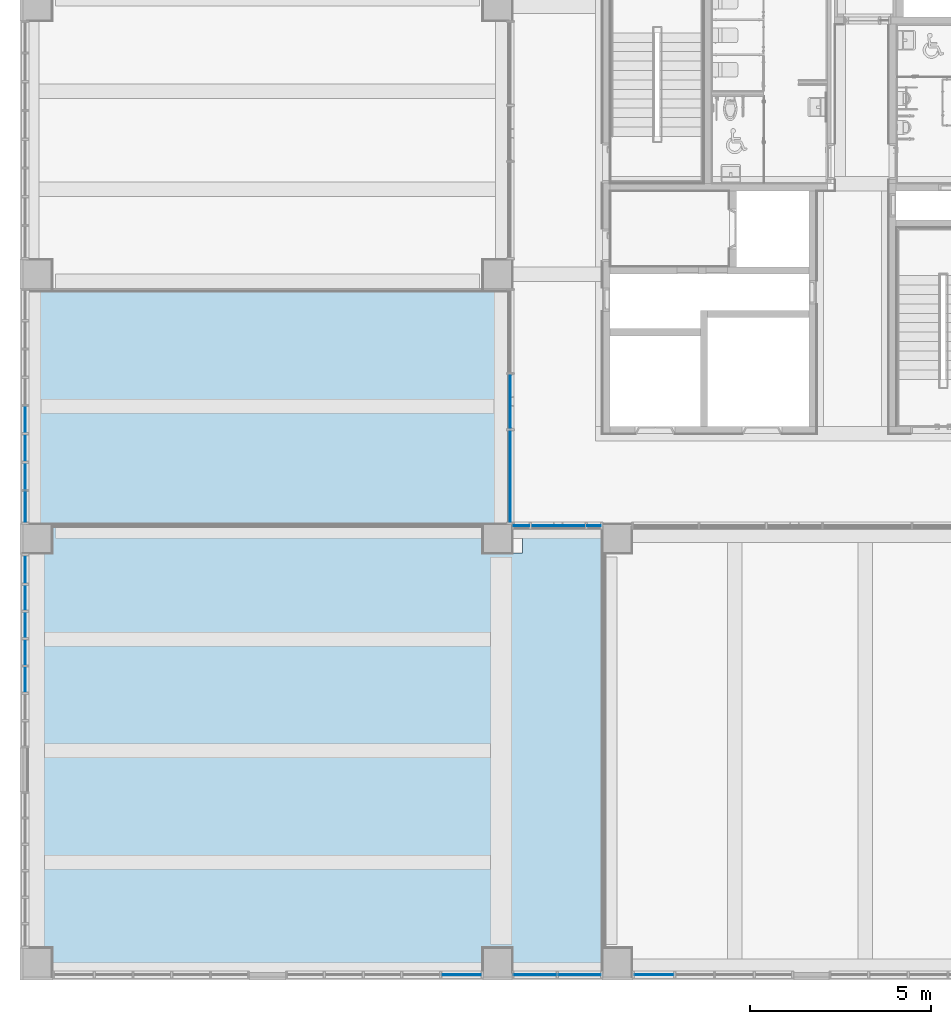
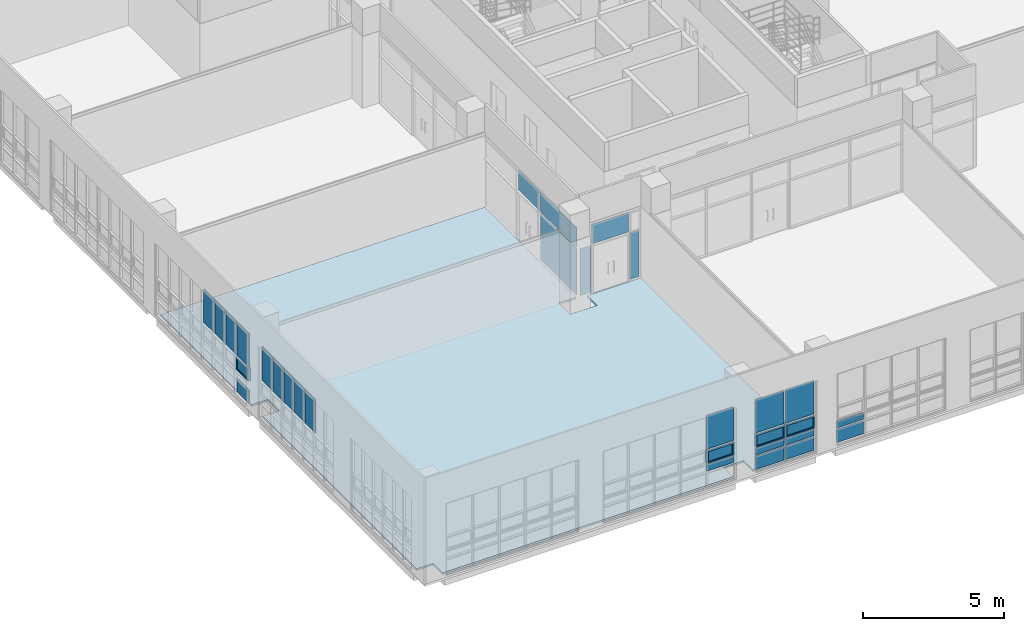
# One storey, part 31 of 74: 30 plates, 1 slab, 7 elements without a shape of their own.
"""IFC2X3 building model written with IfcOpenShell, lengths in millimetres."""

from ifc_helpers import new_model, entity, si_unit, converted_unit, derived_unit, direction, frame, origin, origin_2d_with_axis, place, context, subcontext, project, spatial, polyline, rectangle, outline, extrude, source, transform, mapped, material, material_list, layer, layer_set, layer_usage, type_object, type_shapes, element, aggregate, save


model = new_model("IFC2X3")

# Units and contexts
model_context = context("Model", 3, precision=0.01, world=origin(), true_north=direction((6.123031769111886e-17, 1.0)))
body_context = subcontext(model_context, "Body", "Model", "MODEL_VIEW")
ifc_project = project(units=[si_unit("LENGTHUNIT", "METRE", prefix="MILLI"), si_unit("AREAUNIT", "SQUARE_METRE"), si_unit("VOLUMEUNIT", "CUBIC_METRE"), converted_unit("PLANEANGLEUNIT", "DEGREE", entity("IfcRatioMeasure", 0.017453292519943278), si_unit("PLANEANGLEUNIT", "RADIAN"), dimensions=[0, 0, 0, 0, 0, 0, 0]), si_unit("MASSUNIT", "GRAM", prefix="KILO"), derived_unit("MASSDENSITYUNIT", [(si_unit("MASSUNIT", "GRAM", prefix="KILO"), 1), (si_unit("LENGTHUNIT", "METRE"), -3)]), derived_unit("MOMENTOFINERTIAUNIT", [(si_unit("LENGTHUNIT", "METRE"), 4)]), si_unit("TIMEUNIT", "SECOND"), si_unit("FREQUENCYUNIT", "HERTZ"), si_unit("THERMODYNAMICTEMPERATUREUNIT", "DEGREE_CELSIUS"), derived_unit("THERMALTRANSMITTANCEUNIT", [(si_unit("MASSUNIT", "GRAM", prefix="KILO"), 1), (si_unit("THERMODYNAMICTEMPERATUREUNIT", "KELVIN"), -1), (si_unit("TIMEUNIT", "SECOND"), -3)]), derived_unit("VOLUMETRICFLOWRATEUNIT", [(si_unit("LENGTHUNIT", "METRE"), 3), (si_unit("TIMEUNIT", "SECOND"), -1)]), derived_unit("MASSFLOWRATEUNIT", [(si_unit("MASSUNIT", "GRAM", prefix="KILO"), 1), (si_unit("TIMEUNIT", "SECOND"), -1)]), derived_unit("ROTATIONALFREQUENCYUNIT", [(si_unit("TIMEUNIT", "SECOND"), -1)]), si_unit("ELECTRICCURRENTUNIT", "AMPERE"), si_unit("ELECTRICVOLTAGEUNIT", "VOLT"), si_unit("POWERUNIT", "WATT"), si_unit("FORCEUNIT", "NEWTON", prefix="KILO"), si_unit("ILLUMINANCEUNIT", "LUX"), si_unit("LUMINOUSFLUXUNIT", "LUMEN"), si_unit("LUMINOUSINTENSITYUNIT", "CANDELA"), derived_unit("USERDEFINED", [(si_unit("MASSUNIT", "GRAM", prefix="KILO"), -1), (si_unit("LENGTHUNIT", "METRE"), -2), (si_unit("TIMEUNIT", "SECOND"), 3), (si_unit("LUMINOUSFLUXUNIT", "LUMEN"), 1)]), derived_unit("SOUNDPOWERUNIT", [(si_unit("MASSUNIT", "GRAM", prefix="KILO"), 1), (si_unit("LENGTHUNIT", "METRE"), 2), (si_unit("TIMEUNIT", "SECOND"), -3)]), derived_unit("SOUNDPRESSUREUNIT", [(si_unit("MASSUNIT", "GRAM", prefix="KILO"), 1), (si_unit("LENGTHUNIT", "METRE"), -1), (si_unit("TIMEUNIT", "SECOND"), -2)]), derived_unit("LINEARVELOCITYUNIT", [(si_unit("LENGTHUNIT", "METRE"), 1), (si_unit("TIMEUNIT", "SECOND"), -1)]), si_unit("PRESSUREUNIT", "PASCAL"), derived_unit("USERDEFINED", [(si_unit("LENGTHUNIT", "METRE"), -2), (si_unit("MASSUNIT", "GRAM", prefix="KILO"), 1), (si_unit("TIMEUNIT", "SECOND"), -2)]), derived_unit("LINEARFORCEUNIT", [(si_unit("MASSUNIT", "GRAM", prefix="KILO"), 1), (si_unit("LENGTHUNIT", "METRE"), 1), (si_unit("TIMEUNIT", "SECOND"), -2), (si_unit("LENGTHUNIT", "METRE"), -1)]), derived_unit("PLANARFORCEUNIT", [(si_unit("MASSUNIT", "GRAM", prefix="KILO"), 1), (si_unit("LENGTHUNIT", "METRE"), 1), (si_unit("TIMEUNIT", "SECOND"), -2), (si_unit("LENGTHUNIT", "METRE"), -2)])], contexts=[model_context])

# Site, building, storey
site_placement = place(None, frame((-14167.972527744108, -657.2125860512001, 0.0)))
site = spatial("IfcSite", under=ifc_project, at=site_placement, Name="Default", CompositionType="ELEMENT")
building_placement = place(site_placement, origin())
building = spatial("IfcBuilding", under=site, at=building_placement, Name="Sample Building", CompositionType="ELEMENT")
storey_placement = place(building_placement, frame((0.0, 0.0, 4800.0)))
storey = spatial("IfcBuildingStorey", under=building, at=storey_placement, Name="지상 2층", CompositionType="ELEMENT", Elevation=4800.000000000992)

# Curtain wall, plates
curtain_wall_type = type_object("IfcCurtainWallType", Name="커튼월:CW112-스테인리스 스틸 커튼월", PredefinedType="NOTDEFINED")
curtain_wall_1_placement = place(storey_placement, frame((0.0, 0.0, -4800.0)))
curtain_wall_1 = element("IfcCurtainWall", 1, at=curtain_wall_1_placement, inside=storey, type_object=curtain_wall_type, Name="커튼월:CW112-스테인리스 스틸 커튼월", ObjectType="커튼월:CW112-스테인리스 스틸 커튼월")
ifc_material_1 = material(Name="KBIMS-로이유리(코팅)")
plate_type_1 = type_object("IfcPlateType", Name="CW300-THK24.Low-e coating glass:CW300-THK24.Low-e coating glass", PredefinedType="CURTAIN_PANEL", material=ifc_material_1)
shared_shape_1 = source(origin(), body_context, "Body", "SweptSolid", [
    extrude(rectangle(XDim=856.2499672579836, YDim=24.000000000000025, at=origin_2d_with_axis()), frame((0.0, 0.0, 0.0), z_axis=(0.0, 0.0, 1.0), x_axis=(-1.0, 0.0, 0.0)), (0.0, 0.0, 1.0), 575.0000000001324),
])
type_shapes(plate_type_1, [shared_shape_1])
plate_1_placement = place(curtain_wall_1_placement, frame((14130.47257087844, 13535.337291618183, 4930.0), z_axis=(0.0, 0.0, 1.0), x_axis=(0.0, -1.0, 0.0)))
plate_1 = element("IfcPlate", 2, at=plate_1_placement, type_object=plate_type_1, material=ifc_material_1, Name="CW300-THK24.Low-e coating glass:CW300-THK24.Low-e coating glass", ObjectType="CW300-THK24.Low-e coating glass:CW300-THK24.Low-e coating glass", context=body_context, shape_type="MappedRepresentation", body=[
    mapped(shared_shape_1, transform((0.0, 0.0, 0.0), scale=1.0)),
])
ifc_material_2 = material(Name="KBIMS-유리")
ifc_material_3 = material(Name="KBIMS-알루미늄")
ifc_material_list_1 = material_list([ifc_material_2, ifc_material_3])
ifc_material_list_2 = material_list([ifc_material_2, ifc_material_3])
plate_type_2 = type_object("IfcPlateType", Name="CW410-프로젝트 창:CW410-프로젝트 창 (하부개폐)", PredefinedType="CURTAIN_PANEL", material=ifc_material_list_2)
shared_shape_2 = source(origin(), body_context, "Body", "SweptSolid", [
    extrude(rectangle(XDim=756.2499672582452, YDim=23.999999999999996, at=origin_2d_with_axis()), frame((0.0, -0.04999999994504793, 50.0), z_axis=(0.0, 0.0, 1.0), x_axis=(-1.0, 0.0, 0.0)), (0.0, 0.0, 1.0), 450.0000000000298),
    extrude(outline(polyline([(-428.124983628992, -275.0), (428.124983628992, -275.0), (428.124983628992, 275.0), (-428.124983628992, 275.0), (-428.124983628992, -275.0)]), holes=[polyline([(-378.12498362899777, -225.0), (-378.1249836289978, 225.0), (378.1249836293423, 225.0), (378.12498362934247, -225.0), (-378.12498362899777, -225.0)])]), frame((0.0, -50.04999999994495, 275.0), z_axis=(0.0, 1.0, 0.0), x_axis=(1.0, 0.0, 0.0)), (0.0, 0.0, 1.0), 99.99999999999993),
])
type_shapes(plate_type_2, [shared_shape_2])
plate_2_placement = place(curtain_wall_1_placement, frame((14130.47257087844, 13535.337291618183, 5905.0), z_axis=(0.0, 0.0, 1.0), x_axis=(0.0, -1.0, 0.0)))
plate_2 = element("IfcPlate", 3, at=plate_2_placement, type_object=plate_type_2, material=ifc_material_list_1, Name="CW410-프로젝트 창:CW410-프로젝트 창 (하부개폐)", ObjectType="CW410-프로젝트 창:CW410-프로젝트 창 (하부개폐)", context=body_context, shape_type="MappedRepresentation", body=[
    mapped(shared_shape_2, transform((0.0, 0.0, 0.0), scale=1.0)),
])
plate_type_3 = type_object("IfcPlateType", Name="CW300-THK24.Low-e coating glass:CW300-THK24.Low-e coating glass", PredefinedType="CURTAIN_PANEL", material=ifc_material_1)
shared_shape_3 = source(origin(), body_context, "Body", "SweptSolid", [
    extrude(rectangle(XDim=731.2499999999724, YDim=24.000000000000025, at=origin_2d_with_axis()), frame((0.0, 0.0, 0.0), z_axis=(0.0, 0.0, 1.0), x_axis=(-1.0, 0.0, 0.0)), (0.0, 0.0, 1.0), 1445.0000000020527),
])
type_shapes(plate_type_3, [shared_shape_3])
plate_3_placement = place(curtain_wall_1_placement, frame((14130.472570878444, 15941.587275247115, 6505.0), z_axis=(0.0, 0.0, 1.0), x_axis=(0.0, -1.0, 0.0)))
plate_3 = element("IfcPlate", 4, at=plate_3_placement, type_object=plate_type_3, material=ifc_material_1, Name="CW300-THK24.Low-e coating glass:CW300-THK24.Low-e coating glass", ObjectType="CW300-THK24.Low-e coating glass:CW300-THK24.Low-e coating glass", context=body_context, shape_type="MappedRepresentation", body=[
    mapped(shared_shape_3, transform((0.0, 0.0, 0.0), scale=1.0)),
])
plate_4_placement = place(curtain_wall_1_placement, frame((14130.472570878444, 15160.33727524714, 6505.0), z_axis=(0.0, 0.0, 1.0), x_axis=(0.0, -1.0, 0.0)))
plate_4 = element("IfcPlate", 5, at=plate_4_placement, type_object=plate_type_3, material=ifc_material_1, Name="CW300-THK24.Low-e coating glass:CW300-THK24.Low-e coating glass", ObjectType="CW300-THK24.Low-e coating glass:CW300-THK24.Low-e coating glass", context=body_context, shape_type="MappedRepresentation", body=[
    mapped(shared_shape_3, transform((0.0, 0.0, 0.0), scale=1.0)),
])
plate_5_placement = place(curtain_wall_1_placement, frame((14130.472570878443, 14379.087275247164, 6505.0), z_axis=(0.0, 0.0, 1.0), x_axis=(0.0, -1.0, 0.0)))
plate_5 = element("IfcPlate", 6, at=plate_5_placement, type_object=plate_type_3, material=ifc_material_1, Name="CW300-THK24.Low-e coating glass:CW300-THK24.Low-e coating glass", ObjectType="CW300-THK24.Low-e coating glass:CW300-THK24.Low-e coating glass", context=body_context, shape_type="MappedRepresentation", body=[
    mapped(shared_shape_3, transform((0.0, 0.0, 0.0), scale=1.0)),
])
plate_type_4 = type_object("IfcPlateType", Name="CW300-THK24.Low-e coating glass:CW300-THK24.Low-e coating glass", PredefinedType="CURTAIN_PANEL", material=ifc_material_1)
shared_shape_4 = source(origin(), body_context, "Body", "SweptSolid", [
    extrude(rectangle(XDim=856.2499672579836, YDim=24.000000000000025, at=origin_2d_with_axis()), frame((0.0, 0.0, 0.0), z_axis=(0.0, 0.0, 1.0), x_axis=(-1.0, 0.0, 0.0)), (0.0, 0.0, 1.0), 1445.0000000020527),
])
type_shapes(plate_type_4, [shared_shape_4])
plate_6_placement = place(curtain_wall_1_placement, frame((14130.47257087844, 13535.337291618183, 6505.0), z_axis=(0.0, 0.0, 1.0), x_axis=(0.0, -1.0, 0.0)))
plate_6 = element("IfcPlate", 7, at=plate_6_placement, type_object=plate_type_4, material=ifc_material_1, Name="CW300-THK24.Low-e coating glass:CW300-THK24.Low-e coating glass", ObjectType="CW300-THK24.Low-e coating glass:CW300-THK24.Low-e coating glass", context=body_context, shape_type="MappedRepresentation", body=[
    mapped(shared_shape_4, transform((0.0, 0.0, 0.0), scale=1.0)),
])
aggregate(curtain_wall_1, [plate_1, plate_2, plate_3, plate_4, plate_5, plate_6])

curtain_wall_2_placement = place(storey_placement, frame((0.0, 0.0, -4800.0)))
curtain_wall_2 = element("IfcCurtainWall", 8, at=curtain_wall_2_placement, inside=storey, type_object=curtain_wall_type, Name="커튼월:CW112-스테인리스 스틸 커튼월", ObjectType="커튼월:CW112-스테인리스 스틸 커튼월")
plate_type_5 = type_object("IfcPlateType", Name="CW300-THK24.Low-e coating glass:CW300-THK24.Low-e coating glass", PredefinedType="CURTAIN_PANEL", material=ifc_material_1)
shared_shape_5 = source(origin(), body_context, "Body", "SweptSolid", [
    extrude(rectangle(XDim=760.5714613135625, YDim=24.000000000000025, at=origin_2d_with_axis()), frame((0.0, 0.0, 0.0), z_axis=(0.0, 0.0, 1.0), x_axis=(-1.0, 0.0, 0.0)), (0.0, 0.0, 1.0), 1445.0000000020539),
])
type_shapes(plate_type_5, [shared_shape_5])
plate_7_placement = place(curtain_wall_2_placement, frame((14130.472570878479, 11808.926577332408, 6505.0), z_axis=(0.0, 0.0, 1.0), x_axis=(0.0, -1.0, 0.0)))
plate_7 = element("IfcPlate", 9, at=plate_7_placement, type_object=plate_type_5, material=ifc_material_1, Name="CW300-THK24.Low-e coating glass:CW300-THK24.Low-e coating glass", ObjectType="CW300-THK24.Low-e coating glass:CW300-THK24.Low-e coating glass", context=body_context, shape_type="MappedRepresentation", body=[
    mapped(shared_shape_5, transform((0.0, 0.0, 0.0), scale=1.0)),
])
plate_type_6 = type_object("IfcPlateType", Name="CW300-THK24.Low-e coating glass:CW300-THK24.Low-e coating glass", PredefinedType="CURTAIN_PANEL", material=ifc_material_1)
shared_shape_6 = source(origin(), body_context, "Body", "SweptSolid", [
    extrude(rectangle(XDim=703.5714285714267, YDim=24.000000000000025, at=origin_2d_with_axis()), frame((0.0, 0.0, 0.0), z_axis=(0.0, 0.0, 1.0), x_axis=(-1.0, 0.0, 0.0)), (0.0, 0.0, 1.0), 1445.0000000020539),
])
type_shapes(plate_type_6, [shared_shape_6])
plate_8_placement = place(curtain_wall_2_placement, frame((14130.472570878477, 11026.85513238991, 6505.0), z_axis=(0.0, 0.0, 1.0), x_axis=(0.0, -1.0, 0.0)))
plate_8 = element("IfcPlate", 10, at=plate_8_placement, type_object=plate_type_6, material=ifc_material_1, Name="CW300-THK24.Low-e coating glass:CW300-THK24.Low-e coating glass", ObjectType="CW300-THK24.Low-e coating glass:CW300-THK24.Low-e coating glass", context=body_context, shape_type="MappedRepresentation", body=[
    mapped(shared_shape_6, transform((0.0, 0.0, 0.0), scale=1.0)),
])
plate_9_placement = place(curtain_wall_2_placement, frame((14130.472570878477, 10273.283703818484, 6505.0), z_axis=(0.0, 0.0, 1.0), x_axis=(0.0, -1.0, 0.0)))
plate_9 = element("IfcPlate", 11, at=plate_9_placement, type_object=plate_type_6, material=ifc_material_1, Name="CW300-THK24.Low-e coating glass:CW300-THK24.Low-e coating glass", ObjectType="CW300-THK24.Low-e coating glass:CW300-THK24.Low-e coating glass", context=body_context, shape_type="MappedRepresentation", body=[
    mapped(shared_shape_6, transform((0.0, 0.0, 0.0), scale=1.0)),
])
plate_10_placement = place(curtain_wall_2_placement, frame((14130.472570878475, 9519.712275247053, 6505.0), z_axis=(0.0, 0.0, 1.0), x_axis=(0.0, -1.0, 0.0)))
plate_10 = element("IfcPlate", 12, at=plate_10_placement, type_object=plate_type_6, material=ifc_material_1, Name="CW300-THK24.Low-e coating glass:CW300-THK24.Low-e coating glass", ObjectType="CW300-THK24.Low-e coating glass:CW300-THK24.Low-e coating glass", context=body_context, shape_type="MappedRepresentation", body=[
    mapped(shared_shape_6, transform((0.0, 0.0, 0.0), scale=1.0)),
])
plate_11_placement = place(curtain_wall_2_placement, frame((14130.472570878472, 8766.140846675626, 6505.0), z_axis=(0.0, 0.0, 1.0), x_axis=(0.0, -1.0, 0.0)))
plate_11 = element("IfcPlate", 13, at=plate_11_placement, type_object=plate_type_6, material=ifc_material_1, Name="CW300-THK24.Low-e coating glass:CW300-THK24.Low-e coating glass", ObjectType="CW300-THK24.Low-e coating glass:CW300-THK24.Low-e coating glass", context=body_context, shape_type="MappedRepresentation", body=[
    mapped(shared_shape_6, transform((0.0, 0.0, 0.0), scale=1.0)),
])
aggregate(curtain_wall_2, [plate_7, plate_8, plate_9, plate_10, plate_11])

curtain_wall_3_placement = place(storey_placement, frame((0.0, 0.0, -4800.0)))
curtain_wall_3 = element("IfcCurtainWall", 14, at=curtain_wall_3_placement, inside=storey, type_object=curtain_wall_type, Name="커튼월:CW112-스테인리스 스틸 커튼월", ObjectType="커튼월:CW112-스테인리스 스틸 커튼월")
plate_type_7 = type_object("IfcPlateType", Name="CW300-THK24.Low-e coating glass:CW300-THK24.Low-e coating glass", PredefinedType="CURTAIN_PANEL", material=ifc_material_1)
shared_shape_7 = source(origin(), body_context, "Body", "SweptSolid", [
    extrude(rectangle(XDim=1095.11495912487, YDim=24.000000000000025, at=origin_2d_with_axis()), frame((0.0, 0.0, 0.0), z_axis=(0.0, 0.0, 1.0), x_axis=(-1.0, 0.0, 0.0)), (0.0, 0.0, 1.0), 299.9999999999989),
])
type_shapes(plate_type_7, [shared_shape_7])
plate_12_placement = place(curtain_wall_3_placement, frame((26170.4150115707, 619.7122951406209, 5555.0)))
plate_12 = element("IfcPlate", 15, at=plate_12_placement, type_object=plate_type_7, material=ifc_material_1, Name="CW300-THK24.Low-e coating glass:CW300-THK24.Low-e coating glass", ObjectType="CW300-THK24.Low-e coating glass:CW300-THK24.Low-e coating glass", context=body_context, shape_type="MappedRepresentation", body=[
    mapped(shared_shape_7, transform((0.0, 0.0, 0.0), scale=1.0)),
])
ifc_material_list_3 = material_list([ifc_material_2, ifc_material_3])
ifc_material_list_4 = material_list([ifc_material_2, ifc_material_3])
plate_type_8 = type_object("IfcPlateType", Name="CW410-프로젝트 창:CW410-프로젝트 창 (하부개폐)", PredefinedType="CURTAIN_PANEL", material=ifc_material_list_4)
shared_shape_8 = source(origin(), body_context, "Body", "SweptSolid", [
    extrude(rectangle(XDim=995.1149591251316, YDim=23.999999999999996, at=origin_2d_with_axis()), frame((0.0, -0.04999999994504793, 50.0), z_axis=(0.0, 0.0, 1.0), x_axis=(-1.0, 0.0, 0.0)), (0.0, 0.0, 1.0), 450.0000000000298),
    extrude(outline(polyline([(-547.5574795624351, -275.0), (547.5574795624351, -275.0), (547.5574795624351, 275.0), (-547.5574795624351, 275.0), (-547.5574795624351, -275.0)]), holes=[polyline([(-497.5574795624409, -225.0), (-497.55747956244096, 225.0), (497.55747956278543, 225.0), (497.5574795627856, -225.0), (-497.5574795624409, -225.0)])]), frame((0.0, -50.04999999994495, 275.0), z_axis=(0.0, 1.0, 0.0), x_axis=(1.0, 0.0, 0.0)), (0.0, 0.0, 1.0), 99.99999999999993),
])
type_shapes(plate_type_8, [shared_shape_8])
plate_13_placement = place(curtain_wall_3_placement, frame((26170.4150115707, 619.7122951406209, 5905.0)))
plate_13 = element("IfcPlate", 16, at=plate_13_placement, type_object=plate_type_8, material=ifc_material_list_3, Name="CW410-프로젝트 창:CW410-프로젝트 창 (하부개폐)", ObjectType="CW410-프로젝트 창:CW410-프로젝트 창 (하부개폐)", context=body_context, shape_type="MappedRepresentation", body=[
    mapped(shared_shape_8, transform((0.0, 0.0, 0.0), scale=1.0)),
])
plate_type_9 = type_object("IfcPlateType", Name="CW300-THK24.Low-e coating glass:CW300-THK24.Low-e coating glass", PredefinedType="CURTAIN_PANEL", material=ifc_material_1)
shared_shape_9 = source(origin(), body_context, "Body", "SweptSolid", [
    extrude(rectangle(XDim=1095.1149591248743, YDim=24.000000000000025, at=origin_2d_with_axis()), frame((0.0, 0.0, 0.0), z_axis=(0.0, 0.0, 1.0), x_axis=(-1.0, 0.0, 0.0)), (0.0, 0.0, 1.0), 1445.0000000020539),
])
type_shapes(plate_type_9, [shared_shape_9])
plate_14_placement = place(curtain_wall_3_placement, frame((26170.4150115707, 619.7122951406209, 6505.0)))
plate_14 = element("IfcPlate", 17, at=plate_14_placement, type_object=plate_type_9, material=ifc_material_1, Name="CW300-THK24.Low-e coating glass:CW300-THK24.Low-e coating glass", ObjectType="CW300-THK24.Low-e coating glass:CW300-THK24.Low-e coating glass", context=body_context, shape_type="MappedRepresentation", body=[
    mapped(shared_shape_9, transform((0.0, 0.0, 0.0), scale=1.0)),
])
aggregate(curtain_wall_3, [plate_12, plate_13, plate_14])

curtain_wall_4_placement = place(storey_placement, frame((0.0, 0.0, -4800.0)))
curtain_wall_4 = element("IfcCurtainWall", 18, at=curtain_wall_4_placement, inside=storey, type_object=curtain_wall_type, Name="커튼월:CW112-스테인리스 스틸 커튼월", ObjectType="커튼월:CW112-스테인리스 스틸 커튼월")
plate_type_10 = type_object("IfcPlateType", Name="CW300-THK24.Low-e coating glass:CW300-THK24.Low-e coating glass", PredefinedType="CURTAIN_PANEL", material=ifc_material_1)
shared_shape_10 = source(origin(), body_context, "Body", "SweptSolid", [
    extrude(rectangle(XDim=1174.8668947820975, YDim=24.000000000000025, at=origin_2d_with_axis()), frame((0.0, 0.0, 0.0), z_axis=(0.0, 0.0, 1.0), x_axis=(-1.0, 0.0, 0.0)), (0.0, 0.0, 1.0), 575.0000000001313),
])
type_shapes(plate_type_10, [shared_shape_10])
plate_15_placement = place(curtain_wall_4_placement, frame((28205.405938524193, 619.7122951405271, 4930.0)))
plate_15 = element("IfcPlate", 19, at=plate_15_placement, type_object=plate_type_10, material=ifc_material_1, Name="CW300-THK24.Low-e coating glass:CW300-THK24.Low-e coating glass", ObjectType="CW300-THK24.Low-e coating glass:CW300-THK24.Low-e coating glass", context=body_context, shape_type="MappedRepresentation", body=[
    mapped(shared_shape_10, transform((0.0, 0.0, 0.0), scale=1.0)),
])
plate_type_11 = type_object("IfcPlateType", Name="CW300-THK24.Low-e coating glass:CW300-THK24.Low-e coating glass", PredefinedType="CURTAIN_PANEL", material=ifc_material_1)
shared_shape_11 = source(origin(), body_context, "Body", "SweptSolid", [
    extrude(rectangle(XDim=1175.133077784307, YDim=24.000000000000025, at=origin_2d_with_axis()), frame((0.0, 0.0, 0.0), z_axis=(0.0, 0.0, 1.0), x_axis=(-1.0, 0.0, 0.0)), (0.0, 0.0, 1.0), 575.0000000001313),
])
type_shapes(plate_type_11, [shared_shape_11])
plate_16_placement = place(curtain_wall_4_placement, frame((29430.40592480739, 619.7122951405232, 4930.0)))
plate_16 = element("IfcPlate", 20, at=plate_16_placement, type_object=plate_type_11, material=ifc_material_1, Name="CW300-THK24.Low-e coating glass:CW300-THK24.Low-e coating glass", ObjectType="CW300-THK24.Low-e coating glass:CW300-THK24.Low-e coating glass", context=body_context, shape_type="MappedRepresentation", body=[
    mapped(shared_shape_11, transform((0.0, 0.0, 0.0), scale=1.0)),
])
plate_type_12 = type_object("IfcPlateType", Name="CW300-THK24.Low-e coating glass:CW300-THK24.Low-e coating glass", PredefinedType="CURTAIN_PANEL", material=ifc_material_1)
shared_shape_12 = source(origin(), body_context, "Body", "SweptSolid", [
    extrude(rectangle(XDim=1174.8668947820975, YDim=24.000000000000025, at=origin_2d_with_axis()), frame((0.0, 0.0, 0.0), z_axis=(0.0, 0.0, 1.0), x_axis=(-1.0, 0.0, 0.0)), (0.0, 0.0, 1.0), 299.9999999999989),
])
type_shapes(plate_type_12, [shared_shape_12])
plate_17_placement = place(curtain_wall_4_placement, frame((28205.405938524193, 619.7122951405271, 5555.0)))
plate_17 = element("IfcPlate", 21, at=plate_17_placement, type_object=plate_type_12, material=ifc_material_1, Name="CW300-THK24.Low-e coating glass:CW300-THK24.Low-e coating glass", ObjectType="CW300-THK24.Low-e coating glass:CW300-THK24.Low-e coating glass", context=body_context, shape_type="MappedRepresentation", body=[
    mapped(shared_shape_12, transform((0.0, 0.0, 0.0), scale=1.0)),
])
plate_type_13 = type_object("IfcPlateType", Name="CW300-THK24.Low-e coating glass:CW300-THK24.Low-e coating glass", PredefinedType="CURTAIN_PANEL", material=ifc_material_1)
shared_shape_13 = source(origin(), body_context, "Body", "SweptSolid", [
    extrude(rectangle(XDim=1175.133077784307, YDim=24.000000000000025, at=origin_2d_with_axis()), frame((0.0, 0.0, 0.0), z_axis=(0.0, 0.0, 1.0), x_axis=(-1.0, 0.0, 0.0)), (0.0, 0.0, 1.0), 299.9999999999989),
])
type_shapes(plate_type_13, [shared_shape_13])
plate_18_placement = place(curtain_wall_4_placement, frame((29430.40592480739, 619.7122951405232, 5555.0)))
plate_18 = element("IfcPlate", 22, at=plate_18_placement, type_object=plate_type_13, material=ifc_material_1, Name="CW300-THK24.Low-e coating glass:CW300-THK24.Low-e coating glass", ObjectType="CW300-THK24.Low-e coating glass:CW300-THK24.Low-e coating glass", context=body_context, shape_type="MappedRepresentation", body=[
    mapped(shared_shape_13, transform((0.0, 0.0, 0.0), scale=1.0)),
])
ifc_material_list_5 = material_list([ifc_material_2, ifc_material_3])
ifc_material_list_6 = material_list([ifc_material_2, ifc_material_3])
plate_type_14 = type_object("IfcPlateType", Name="CW410-프로젝트 창:CW410-프로젝트 창 (하부개폐)", PredefinedType="CURTAIN_PANEL", material=ifc_material_list_6)
shared_shape_14 = source(origin(), body_context, "Body", "SweptSolid", [
    extrude(rectangle(XDim=1074.8668947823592, YDim=23.999999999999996, at=origin_2d_with_axis()), frame((0.0, -0.04999999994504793, 50.0), z_axis=(0.0, 0.0, 1.0), x_axis=(-1.0, 0.0, 0.0)), (0.0, 0.0, 1.0), 450.00000000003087),
    extrude(outline(polyline([(-587.433447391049, -275.0), (587.433447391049, -275.0), (587.433447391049, 275.0), (-587.433447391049, 275.0), (-587.433447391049, -275.0)]), holes=[polyline([(-537.4334473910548, -225.0), (-537.4334473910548, 225.0), (537.4334473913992, 225.0), (537.4334473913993, -225.0), (-537.4334473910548, -225.0)])]), frame((0.0, -50.04999999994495, 275.0), z_axis=(0.0, 1.0, 0.0), x_axis=(1.0, 0.0, 0.0)), (0.0, 0.0, 1.0), 99.99999999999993),
])
type_shapes(plate_type_14, [shared_shape_14])
plate_19_placement = place(curtain_wall_4_placement, frame((28205.405938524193, 619.7122951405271, 5905.0)))
plate_19 = element("IfcPlate", 23, at=plate_19_placement, type_object=plate_type_14, material=ifc_material_list_5, Name="CW410-프로젝트 창:CW410-프로젝트 창 (하부개폐)", ObjectType="CW410-프로젝트 창:CW410-프로젝트 창 (하부개폐)", context=body_context, shape_type="MappedRepresentation", body=[
    mapped(shared_shape_14, transform((0.0, 0.0, 0.0), scale=1.0)),
])
ifc_material_list_7 = material_list([ifc_material_2, ifc_material_3])
ifc_material_list_8 = material_list([ifc_material_2, ifc_material_3])
plate_type_15 = type_object("IfcPlateType", Name="CW410-프로젝트 창:CW410-프로젝트 창 (하부개폐)", PredefinedType="CURTAIN_PANEL", material=ifc_material_list_8)
shared_shape_15 = source(origin(), body_context, "Body", "SweptSolid", [
    extrude(rectangle(XDim=1075.1330777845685, YDim=23.999999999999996, at=origin_2d_with_axis()), frame((0.0, -0.04999999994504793, 50.0), z_axis=(0.0, 0.0, 1.0), x_axis=(-1.0, 0.0, 0.0)), (0.0, 0.0, 1.0), 450.00000000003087),
    extrude(outline(polyline([(-587.5665388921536, -275.0), (587.5665388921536, -275.0), (587.5665388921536, 275.0), (-587.5665388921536, 275.0), (-587.5665388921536, -275.0)]), holes=[polyline([(-537.5665388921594, -225.0), (-537.5665388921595, 225.0), (537.566538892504, 225.0), (537.5665388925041, -225.0), (-537.5665388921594, -225.0)])]), frame((0.0, -50.04999999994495, 275.0), z_axis=(0.0, 1.0, 0.0), x_axis=(1.0, 0.0, 0.0)), (0.0, 0.0, 1.0), 99.99999999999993),
])
type_shapes(plate_type_15, [shared_shape_15])
plate_20_placement = place(curtain_wall_4_placement, frame((29430.40592480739, 619.7122951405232, 5905.0)))
plate_20 = element("IfcPlate", 24, at=plate_20_placement, type_object=plate_type_15, material=ifc_material_list_7, Name="CW410-프로젝트 창:CW410-프로젝트 창 (하부개폐)", ObjectType="CW410-프로젝트 창:CW410-프로젝트 창 (하부개폐)", context=body_context, shape_type="MappedRepresentation", body=[
    mapped(shared_shape_15, transform((0.0, 0.0, 0.0), scale=1.0)),
])
plate_type_16 = type_object("IfcPlateType", Name="CW300-THK24.Low-e coating glass:CW300-THK24.Low-e coating glass", PredefinedType="CURTAIN_PANEL", material=ifc_material_1)
shared_shape_16 = source(origin(), body_context, "Body", "SweptSolid", [
    extrude(rectangle(XDim=1174.8668947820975, YDim=24.000000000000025, at=origin_2d_with_axis()), frame((0.0, 0.0, 0.0), z_axis=(0.0, 0.0, 1.0), x_axis=(-1.0, 0.0, 0.0)), (0.0, 0.0, 1.0), 1445.0000000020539),
])
type_shapes(plate_type_16, [shared_shape_16])
plate_21_placement = place(curtain_wall_4_placement, frame((28205.405938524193, 619.7122951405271, 6505.0)))
plate_21 = element("IfcPlate", 25, at=plate_21_placement, type_object=plate_type_16, material=ifc_material_1, Name="CW300-THK24.Low-e coating glass:CW300-THK24.Low-e coating glass", ObjectType="CW300-THK24.Low-e coating glass:CW300-THK24.Low-e coating glass", context=body_context, shape_type="MappedRepresentation", body=[
    mapped(shared_shape_16, transform((0.0, 0.0, 0.0), scale=1.0)),
])
plate_type_17 = type_object("IfcPlateType", Name="CW300-THK24.Low-e coating glass:CW300-THK24.Low-e coating glass", PredefinedType="CURTAIN_PANEL", material=ifc_material_1)
shared_shape_17 = source(origin(), body_context, "Body", "SweptSolid", [
    extrude(rectangle(XDim=1175.133077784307, YDim=24.000000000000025, at=origin_2d_with_axis()), frame((0.0, 0.0, 0.0), z_axis=(0.0, 0.0, 1.0), x_axis=(-1.0, 0.0, 0.0)), (0.0, 0.0, 1.0), 1445.0000000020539),
])
type_shapes(plate_type_17, [shared_shape_17])
plate_22_placement = place(curtain_wall_4_placement, frame((29430.40592480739, 619.7122951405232, 6505.0)))
plate_22 = element("IfcPlate", 26, at=plate_22_placement, type_object=plate_type_17, material=ifc_material_1, Name="CW300-THK24.Low-e coating glass:CW300-THK24.Low-e coating glass", ObjectType="CW300-THK24.Low-e coating glass:CW300-THK24.Low-e coating glass", context=body_context, shape_type="MappedRepresentation", body=[
    mapped(shared_shape_17, transform((0.0, 0.0, 0.0), scale=1.0)),
])
aggregate(curtain_wall_4, [plate_15, plate_16, plate_17, plate_18, plate_19, plate_20, plate_21, plate_22])

curtain_wall_5_placement = place(storey_placement, frame((0.0, 0.0, -4800.0)))
curtain_wall_5 = element("IfcCurtainWall", 27, at=curtain_wall_5_placement, inside=storey, type_object=curtain_wall_type, Name="커튼월:CW112-스테인리스 스틸 커튼월", ObjectType="커튼월:CW112-스테인리스 스틸 커튼월")
plate_type_18 = type_object("IfcPlateType", Name="CW300-THK24.Low-e coating glass:CW300-THK24.Low-e coating glass", PredefinedType="CURTAIN_PANEL", material=ifc_material_1)
shared_shape_18 = source(origin(), body_context, "Body", "SweptSolid", [
    extrude(rectangle(XDim=1101.0161596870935, YDim=24.000000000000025, at=origin_2d_with_axis()), frame((0.0, 0.0, 0.0), z_axis=(0.0, 0.0, 1.0), x_axis=(-1.0, 0.0, 0.0)), (0.0, 0.0, 1.0), 575.0000000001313),
])
type_shapes(plate_type_18, [shared_shape_18])
plate_23_placement = place(curtain_wall_5_placement, frame((31486.480543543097, 619.7122951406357, 4930.0)))
plate_23 = element("IfcPlate", 28, at=plate_23_placement, type_object=plate_type_18, material=ifc_material_1, Name="CW300-THK24.Low-e coating glass:CW300-THK24.Low-e coating glass", ObjectType="CW300-THK24.Low-e coating glass:CW300-THK24.Low-e coating glass", context=body_context, shape_type="MappedRepresentation", body=[
    mapped(shared_shape_18, transform((0.0, 0.0, 0.0), scale=1.0)),
])
plate_type_19 = type_object("IfcPlateType", Name="CW300-THK24.Low-e coating glass:CW300-THK24.Low-e coating glass", PredefinedType="CURTAIN_PANEL", material=ifc_material_1)
shared_shape_19 = source(origin(), body_context, "Body", "SweptSolid", [
    extrude(rectangle(XDim=1101.0161596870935, YDim=24.000000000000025, at=origin_2d_with_axis()), frame((0.0, 0.0, 0.0), z_axis=(0.0, 0.0, 1.0), x_axis=(-1.0, 0.0, 0.0)), (0.0, 0.0, 1.0), 299.9999999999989),
])
type_shapes(plate_type_19, [shared_shape_19])
plate_24_placement = place(curtain_wall_5_placement, frame((31486.480543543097, 619.7122951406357, 5555.0)))
plate_24 = element("IfcPlate", 29, at=plate_24_placement, type_object=plate_type_19, material=ifc_material_1, Name="CW300-THK24.Low-e coating glass:CW300-THK24.Low-e coating glass", ObjectType="CW300-THK24.Low-e coating glass:CW300-THK24.Low-e coating glass", context=body_context, shape_type="MappedRepresentation", body=[
    mapped(shared_shape_19, transform((0.0, 0.0, 0.0), scale=1.0)),
])
aggregate(curtain_wall_5, [plate_23, plate_24])

curtain_wall_6_placement = place(storey_placement, frame((0.0, 0.0, -4800.0)))
curtain_wall_6 = element("IfcCurtainWall", 30, at=curtain_wall_6_placement, inside=storey, type_object=curtain_wall_type, Name="커튼월:CW112-스테인리스 스틸 커튼월", ObjectType="커튼월:CW112-스테인리스 스틸 커튼월")
plate_type_20 = type_object("IfcPlateType", Name="CW300-THK24.Low-e coating glass:CW300-THK24.Low-e coating glass", PredefinedType="CURTAIN_PANEL", material=ifc_material_1)
shared_shape_20 = source(origin(), body_context, "Body", "SweptSolid", [
    extrude(rectangle(XDim=1500.0000000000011, YDim=24.000000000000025, at=origin_2d_with_axis()), frame((0.0, 0.0, 0.0), z_axis=(0.0, 0.0, 1.0), x_axis=(-1.0, 0.0, 0.0)), (0.0, 0.0, 1.0), 845.0000000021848),
])
type_shapes(plate_type_20, [shared_shape_20])
plate_25_placement = place(curtain_wall_6_placement, frame((27522.972491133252, 16442.17762439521, 7005.0), z_axis=(0.0, 0.0, 1.0), x_axis=(0.0, -1.0, 0.0)))
plate_25 = element("IfcPlate", 31, at=plate_25_placement, type_object=plate_type_20, material=ifc_material_1, Name="CW300-THK24.Low-e coating glass:CW300-THK24.Low-e coating glass", ObjectType="CW300-THK24.Low-e coating glass:CW300-THK24.Low-e coating glass", context=body_context, shape_type="MappedRepresentation", body=[
    mapped(shared_shape_20, transform((0.0, 0.0, 0.0), scale=1.0)),
])
plate_type_21 = type_object("IfcPlateType", Name="CW300-THK24.Low-e coating glass:CW300-THK24.Low-e coating glass", PredefinedType="CURTAIN_PANEL", material=ifc_material_1)
shared_shape_21 = source(origin(), body_context, "Body", "SweptSolid", [
    extrude(rectangle(XDim=2534.965316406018, YDim=24.000000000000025, at=origin_2d_with_axis()), frame((0.0, 0.0, 0.0), z_axis=(0.0, 0.0, 1.0), x_axis=(-1.0, 0.0, 0.0)), (0.0, 0.0, 1.0), 2025.000000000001),
])
type_shapes(plate_type_21, [shared_shape_21])
plate_26_placement = place(curtain_wall_6_placement, frame((27522.972491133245, 14374.694966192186, 4930.0), z_axis=(0.0, 0.0, 1.0), x_axis=(0.0, -1.0, 0.0)))
plate_26 = element("IfcPlate", 32, at=plate_26_placement, type_object=plate_type_21, material=ifc_material_1, Name="CW300-THK24.Low-e coating glass:CW300-THK24.Low-e coating glass", ObjectType="CW300-THK24.Low-e coating glass:CW300-THK24.Low-e coating glass", context=body_context, shape_type="MappedRepresentation", body=[
    mapped(shared_shape_21, transform((0.0, 0.0, 0.0), scale=1.0)),
])
plate_type_22 = type_object("IfcPlateType", Name="CW300-THK24.Low-e coating glass:CW300-THK24.Low-e coating glass", PredefinedType="CURTAIN_PANEL", material=ifc_material_1)
shared_shape_22 = source(origin(), body_context, "Body", "SweptSolid", [
    extrude(rectangle(XDim=2534.965316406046, YDim=24.000000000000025, at=origin_2d_with_axis()), frame((0.0, 0.0, 0.0), z_axis=(0.0, 0.0, 1.0), x_axis=(-1.0, 0.0, 0.0)), (0.0, 0.0, 1.0), 845.0000000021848),
])
type_shapes(plate_type_22, [shared_shape_22])
plate_27_placement = place(curtain_wall_6_placement, frame((27522.972491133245, 14374.694966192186, 7005.0), z_axis=(0.0, 0.0, 1.0), x_axis=(0.0, -1.0, 0.0)))
plate_27 = element("IfcPlate", 33, at=plate_27_placement, type_object=plate_type_22, material=ifc_material_1, Name="CW300-THK24.Low-e coating glass:CW300-THK24.Low-e coating glass", ObjectType="CW300-THK24.Low-e coating glass:CW300-THK24.Low-e coating glass", context=body_context, shape_type="MappedRepresentation", body=[
    mapped(shared_shape_22, transform((0.0, 0.0, 0.0), scale=1.0)),
])
aggregate(curtain_wall_6, [plate_26, plate_25, plate_27])

curtain_wall_7_placement = place(storey_placement, frame((0.0, 0.0, -4800.0)))
curtain_wall_7 = element("IfcCurtainWall", 34, at=curtain_wall_7_placement, inside=storey, type_object=curtain_wall_type, Name="커튼월:CW112-스테인리스 스틸 커튼월", ObjectType="커튼월:CW112-스테인리스 스틸 커튼월")
plate_type_23 = type_object("IfcPlateType", Name="CW300-THK24.Low-e coating glass:CW300-THK24.Low-e coating glass", PredefinedType="CURTAIN_PANEL", material=ifc_material_1)
shared_shape_23 = source(origin(), body_context, "Body", "SweptSolid", [
    extrude(rectangle(XDim=24.000000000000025, YDim=376.829299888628, at=origin_2d_with_axis()), frame((0.0, 0.0, 0.0), z_axis=(0.0, 0.0, 1.0), x_axis=(0.0, 1.0, 0.0)), (0.0, 0.0, 1.0), 2024.9999999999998),
])
type_shapes(plate_type_23, [shared_shape_23])
plate_28_placement = place(curtain_wall_7_placement, frame((29829.540464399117, 13012.212307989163, 4930.0), z_axis=(0.0, 0.0, 1.0), x_axis=(-1.0, 0.0, 0.0)))
plate_28 = element("IfcPlate", 35, at=plate_28_placement, type_object=plate_type_23, material=ifc_material_1, Name="CW300-THK24.Low-e coating glass:CW300-THK24.Low-e coating glass", ObjectType="CW300-THK24.Low-e coating glass:CW300-THK24.Low-e coating glass", context=body_context, shape_type="MappedRepresentation", body=[
    mapped(shared_shape_23, transform((0.0, 0.0, 0.0), scale=1.0)),
])
plate_type_24 = type_object("IfcPlateType", Name="CW300-THK24.Low-e coating glass:CW300-THK24.Low-e coating glass", PredefinedType="CURTAIN_PANEL", material=ifc_material_1)
shared_shape_24 = source(origin(), body_context, "Body", "SweptSolid", [
    extrude(rectangle(XDim=24.000000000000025, YDim=423.1454999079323, at=origin_2d_with_axis()), frame((0.0, 0.0, 0.0), z_axis=(0.0, 0.0, 1.0), x_axis=(0.0, 1.0, 0.0)), (0.0, 0.0, 1.0), 2024.9999999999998),
])
type_shapes(plate_type_24, [shared_shape_24])
plate_29_placement = place(curtain_wall_7_placement, frame((27829.553064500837, 13012.212307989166, 4930.0), z_axis=(0.0, 0.0, 1.0), x_axis=(-1.0, 0.0, 0.0)))
plate_29 = element("IfcPlate", 36, at=plate_29_placement, type_object=plate_type_24, material=ifc_material_1, Name="CW300-THK24.Low-e coating glass:CW300-THK24.Low-e coating glass", ObjectType="CW300-THK24.Low-e coating glass:CW300-THK24.Low-e coating glass", context=body_context, shape_type="MappedRepresentation", body=[
    mapped(shared_shape_24, transform((0.0, 0.0, 0.0), scale=1.0)),
])
plate_type_25 = type_object("IfcPlateType", Name="CW300-THK24.Low-e coating glass:CW300-THK24.Low-e coating glass", PredefinedType="CURTAIN_PANEL", material=ifc_material_1)
shared_shape_25 = source(origin(), body_context, "Body", "SweptSolid", [
    extrude(rectangle(XDim=24.000000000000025, YDim=1500.0000000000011, at=origin_2d_with_axis()), frame((0.0, 0.0, 0.0), z_axis=(0.0, 0.0, 1.0), x_axis=(0.0, 1.0, 0.0)), (0.0, 0.0, 1.0), 845.0000000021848),
])
type_shapes(plate_type_25, [shared_shape_25])
plate_30_placement = place(curtain_wall_7_placement, frame((28841.125814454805, 13012.212307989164, 7005.0), z_axis=(0.0, 0.0, 1.0), x_axis=(-1.0, 0.0, 0.0)))
plate_30 = element("IfcPlate", 37, at=plate_30_placement, type_object=plate_type_25, material=ifc_material_1, Name="CW300-THK24.Low-e coating glass:CW300-THK24.Low-e coating glass", ObjectType="CW300-THK24.Low-e coating glass:CW300-THK24.Low-e coating glass", context=body_context, shape_type="MappedRepresentation", body=[
    mapped(shared_shape_25, transform((0.0, 0.0, 0.0), scale=1.0)),
])
aggregate(curtain_wall_7, [plate_28, plate_29, plate_30])

# Slab
ifc_material_4 = material(Name="SL341-테라조 바닥 (바탕48mm, 마감32mm)")
ifc_layer = layer(ifc_material_4, 80.0)
ifc_layer_set = layer_set([ifc_layer], Name="바닥:A1-14-06B-테라조타일 (80mm)")
ifc_layer_usage = layer_usage(ifc_layer_set, "AXIS3", "POSITIVE", 0.0)
slab_type = type_object("IfcSlabType", Name="바닥:A1-14-06B-테라조타일 (80mm)", PredefinedType="FLOOR", material=ifc_layer_set)
slab_placement = place(storey_placement, origin())
element("IfcSlab", 38, at=slab_placement, inside=storey, type_object=slab_type, material=ifc_layer_usage, Name="바닥:A1-14-06B-테라조타일 (80mm)", ObjectType="바닥:A1-14-06B-테라조타일 (80mm)", PredefinedType="FLOOR", context=body_context, shape_type="SweptSolid", body=[
    extrude(outline(polyline([(-7358.739929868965, -8269.500708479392), (3541.2604920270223, -8269.500708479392), (3541.260492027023, -7594.500824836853), (4341.260492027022, -7594.50082483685), (4341.260492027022, -8269.50070847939), (10778.725808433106, -8269.500708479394), (10778.725808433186, 5005.499211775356), (4341.22580843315, 5005.499211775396), (4341.225808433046, 4305.499211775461), (3541.260492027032, 4305.499211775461), (3541.2604920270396, 5400.507035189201), (4241.225808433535, 5400.507035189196), (4241.225808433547, 7605.49918434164), (-8033.739520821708, 7605.49918434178), (-8033.739520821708, 5105.499211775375), (-7358.7399298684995, 5105.49921177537), (-7358.739929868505, 4305.4992117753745), (-8033.739520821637, 4305.499211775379), (-8033.739520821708, -7594.500824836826), (-7358.739929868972, -7594.500824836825), (-7358.739929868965, -8269.500708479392)])), frame((22462.47327935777, 8715.951815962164, 80.0), z_axis=(0.0, 0.0, -1.0), x_axis=(0.0, 1.0, 0.0)), (0.0, 0.0, 1.0), 80.00000000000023),
])

save(model, "model.ifc")
